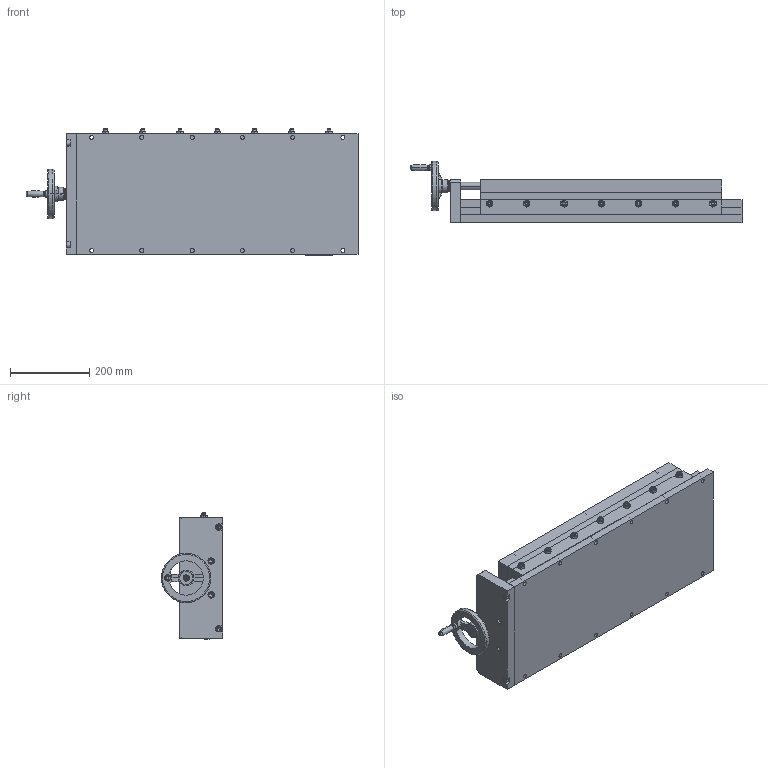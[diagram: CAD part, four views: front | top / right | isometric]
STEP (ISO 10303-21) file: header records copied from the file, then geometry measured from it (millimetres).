
FILE_DESCRIPTION (( 'STEP AP214' ), '1' );
FILE_NAME ('SW12-SL24-BL28-LS.STEP', '2011-11-04T18:05:45', ( '' ), ( '' ), 'SwSTEP 2.0', 'SolidWorks 2011', '' );
FILE_SCHEMA (( 'AUTOMOTIVE_DESIGN' ));
Length unit declared in the file: inch
Products named in the file (26): EW-20; socket head cap screw_ai_HX-SHCS 0.25-20x0.5x0.5-N; AHTNK125; socket head cap screw_ai_HX-SHCS 0.375-16x1.25x1.25-N; 6681K11; Gen2 End Plate_12 EPLATE; socket head cap screw_ai_HX-SHCS 0.375-16x0.75x0.75-N; EW-40; Lead Screw_3_4-6 x 05.38 Lg; spring pin slotted_ai_SPS 0.1875x1.25; Lead Nut_3_4-6; socket head cap screw_ai_HX-SHCS 0.375-16x1.5x1.5-N; Gen2 Nut Plate_12x24 NPLATE; Gen2 SLIDE_SW12-SL24-BL28; Gen2 SADDLE_12x24 SADDLE; machine screw nut hex_ai_MSHXNUT 0.375-24-D-N; socket set screw cup point_ai_SSCUPSKT 0.375-24x1.25-HX-N; Tag; Gen2 Bar_12x24 BAR; Gen2 Adj Gib_12x24 ADJ GIB; Gen2 Gib_12x24 GIB; Gen2 Top plate_12x24 TPLATE; Gen2 BASE_12x28 BASE; Gen2 Hardplate_12x28 HPLATE; Gen2 Baseplate_12x28 BASE; SW12-SL24-BL28-LS
Assembly tree (47 placements, depth 4):
  SW12-SL24-BL28-LS
    spring pin slotted_ai_SPS 0.1875x1.25  x2
    6681K11  x2
    AHTNK125
    socket head cap screw_ai_HX-SHCS 0.375-16x0.75x0.75-N
    socket head cap screw_ai_HX-SHCS 0.375-16x1.5x1.5-N  x6
    socket head cap screw_ai_HX-SHCS 0.375-16x1.25x1.25-N  x4
    Gen2 Nut Plate_12x24 NPLATE
    Lead Nut_3_4-6
    EW-40
    Gen2 SLIDE_SW12-SL24-BL28
      Gen2 SADDLE_12x24 SADDLE
        socket set screw cup point_ai_SSCUPSKT 0.375-24x1.25-HX-N  x7
        Gen2 Bar_12x24 BAR
        machine screw nut hex_ai_MSHXNUT 0.375-24-D-N  x7
        Gen2 Top plate_12x24 TPLATE
        Tag
        Gen2 Adj Gib_12x24 ADJ GIB
        Gen2 Gib_12x24 GIB
      Gen2 BASE_12x28 BASE
        Gen2 Baseplate_12x28 BASE
        Gen2 Hardplate_12x28 HPLATE
    Gen2 End Plate_12 EPLATE
    socket head cap screw_ai_HX-SHCS 0.25-20x0.5x0.5-N
    EW-20
    Lead Screw_3_4-6 x 05.38 Lg
Bounding box: 838.84 x 154.57 x 318.69 mm (x, y, z)
Volume: 22047618.5 mm3; surface area: 2641000.7 mm2
Topology: 73 solids, 73 shells, 1228 faces, 2934 edges, 1695 vertices
Faces by surface type: plane 463, cylinder 325, cone 264, bspline 116, torus 58, sphere 2
Entity records: 24339 total; most frequent: CARTESIAN_POINT 6807, DIRECTION 3387, ORIENTED_EDGE 3012, EDGE_CURVE 1506, AXIS2_PLACEMENT_3D 1355, VERTEX_POINT 964, EDGE_LOOP 836, CIRCLE 697
